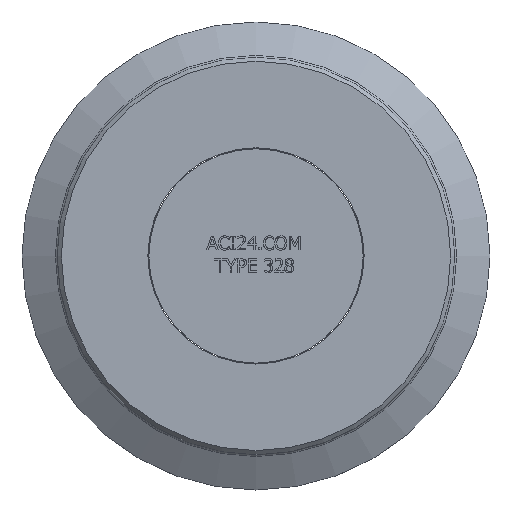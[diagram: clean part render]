
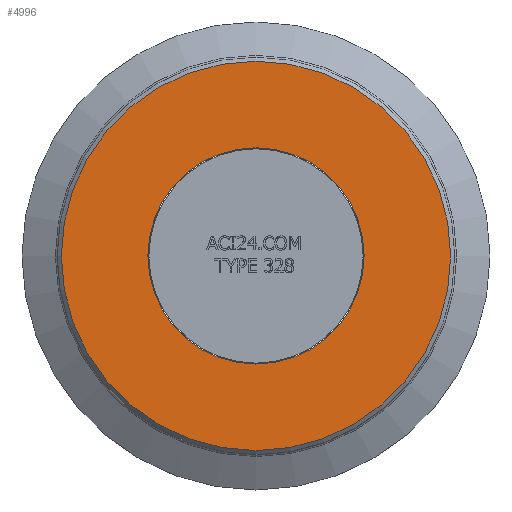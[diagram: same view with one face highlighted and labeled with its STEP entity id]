
A CAD part, top view. The second image highlights one B-rep face of the part: STEP entity #4996.
In plain terms, the highlighted planar face has unit normal (0, 0, 1).
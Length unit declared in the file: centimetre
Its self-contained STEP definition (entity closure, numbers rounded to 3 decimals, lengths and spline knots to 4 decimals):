
#27=CIRCLE('',#5157,4.95);
#29=CIRCLE('',#5161,2.75);
#85=FACE_BOUND('',#992,.T.);
#697=FACE_OUTER_BOUND('',#991,.T.);
#991=EDGE_LOOP('',(#4569));
#992=EDGE_LOOP('',(#4570));
#2430=VERTEX_POINT('',#8913);
#2432=VERTEX_POINT('',#8919);
#3146=EDGE_CURVE('',#2430,#2430,#27,.T.);
#3148=EDGE_CURVE('',#2432,#2432,#29,.T.);
#4569=ORIENTED_EDGE('',*,*,#3146,.F.);
#4570=ORIENTED_EDGE('',*,*,#3148,.F.);
#4732=PLANE('',#5160);
#4996=ADVANCED_FACE('',(#697,#85),#4732,.T.);
#5157=AXIS2_PLACEMENT_3D('',#8914,#5951,#5952);
#5160=AXIS2_PLACEMENT_3D('',#8918,#5957,#5958);
#5161=AXIS2_PLACEMENT_3D('',#8920,#5959,#5960);
#5951=DIRECTION('center_axis',(0.,0.,
-1.));
#5952=DIRECTION('ref_axis',(0.,-1.,0.));
#5957=DIRECTION('center_axis',(0.,0.,
1.));
#5958=DIRECTION('ref_axis',(0.,1.,0.));
#5959=DIRECTION('center_axis',(0.,0.,
1.));
#5960=DIRECTION('ref_axis',(-1.,0.,0.));
#8913=CARTESIAN_POINT('',(0.,4.95,0.6));
#8914=CARTESIAN_POINT('Origin',(0.,0.,
0.6));
#8918=CARTESIAN_POINT('Origin',(0.,2.75,0.6));
#8919=CARTESIAN_POINT('',(0.,2.75,0.6));
#8920=CARTESIAN_POINT('Origin',(0.,0.,
0.6));
